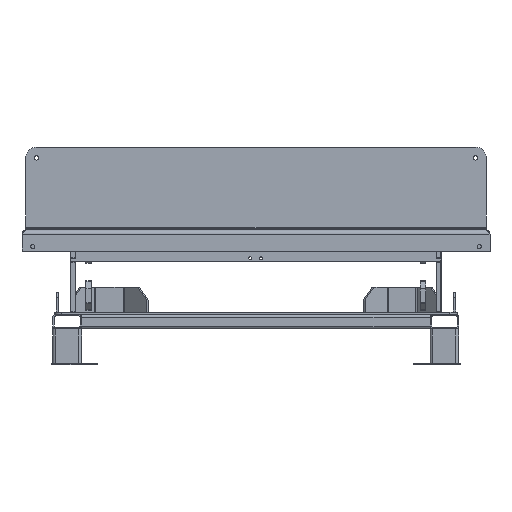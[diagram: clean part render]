
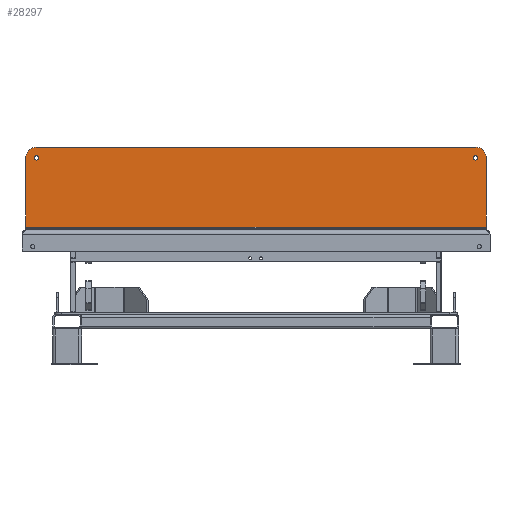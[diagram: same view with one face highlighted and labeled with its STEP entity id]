
A CAD part, left-side view. The second image highlights one B-rep face of the part: STEP entity #28297.
In plain terms, the highlighted planar face has unit normal (-1, 0, 0).
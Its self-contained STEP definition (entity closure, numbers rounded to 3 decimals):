
#417=FACE_BOUND('',#4135,.T.);
#418=FACE_BOUND('',#4136,.T.);
#947=PLANE('',#31582);
#2373=FACE_OUTER_BOUND('',#4134,.T.);
#4134=EDGE_LOOP('',(#25425,#25426,#25427,#25428,#25429,#25430));
#4135=EDGE_LOOP('',(#25431));
#4136=EDGE_LOOP('',(#25432));
#6398=LINE('',#48934,#8702);
#6404=LINE('',#48950,#8708);
#6409=LINE('',#48967,#8713);
#6410=LINE('',#48969,#8714);
#8702=VECTOR('',#40096,10.);
#8708=VECTOR('',#40112,10.);
#8713=VECTOR('',#40137,10.);
#8714=VECTOR('',#40140,10.);
#10587=CIRCLE('',#31530,6.);
#10589=CIRCLE('',#31533,6.);
#10607=CIRCLE('',#31563,30.);
#10610=CIRCLE('',#31569,30.);
#13289=VERTEX_POINT('',#48850);
#13291=VERTEX_POINT('',#48855);
#13316=VERTEX_POINT('',#48921);
#13317=VERTEX_POINT('',#48922);
#13321=VERTEX_POINT('',#48932);
#13325=VERTEX_POINT('',#48944);
#13326=VERTEX_POINT('',#48948);
#13328=VERTEX_POINT('',#48962);
#17343=EDGE_CURVE('',#13289,#13289,#10587,.T.);
#17345=EDGE_CURVE('',#13291,#13291,#10589,.T.);
#17374=EDGE_CURVE('',#13316,#13317,#10607,.T.);
#17380=EDGE_CURVE('',#13321,#13316,#6398,.T.);
#17385=EDGE_CURVE('',#13325,#13321,#10610,.T.);
#17388=EDGE_CURVE('',#13326,#13325,#6404,.T.);
#17397=EDGE_CURVE('',#13326,#13328,#6409,.T.);
#17398=EDGE_CURVE('',#13317,#13328,#6410,.T.);
#25425=ORIENTED_EDGE('',*,*,#17374,.F.);
#25426=ORIENTED_EDGE('',*,*,#17380,.F.);
#25427=ORIENTED_EDGE('',*,*,#17385,.F.);
#25428=ORIENTED_EDGE('',*,*,#17388,.F.);
#25429=ORIENTED_EDGE('',*,*,#17397,.T.);
#25430=ORIENTED_EDGE('',*,*,#17398,.F.);
#25431=ORIENTED_EDGE('',*,*,#17343,.T.);
#25432=ORIENTED_EDGE('',*,*,#17345,.T.);
#28297=ADVANCED_FACE('',(#2373,#417,#418),#947,.T.);
#31530=AXIS2_PLACEMENT_3D('',#48851,#40009,#40010);
#31533=AXIS2_PLACEMENT_3D('',#48856,#40015,#40016);
#31563=AXIS2_PLACEMENT_3D('',#48923,#40086,#40087);
#31569=AXIS2_PLACEMENT_3D('',#48945,#40106,#40107);
#31582=AXIS2_PLACEMENT_3D('',#48970,#40141,#40142);
#40009=DIRECTION('center_axis',(1.,0.,0.));
#40010=DIRECTION('ref_axis',(0.,-1.,0.));
#40015=DIRECTION('center_axis',(1.,0.,0.));
#40016=DIRECTION('ref_axis',(0.,-1.,0.));
#40086=DIRECTION('center_axis',(1.,0.,0.));
#40087=DIRECTION('ref_axis',(0.,-0.707,0.707));
#40096=DIRECTION('',(0.,-1.,0.));
#40106=DIRECTION('center_axis',(1.,0.,0.));
#40107=DIRECTION('ref_axis',(0.,0.707,0.707));
#40112=DIRECTION('',(0.,0.,1.));
#40137=DIRECTION('',(0.,-1.,0.));
#40140=DIRECTION('',(0.,0.,-1.));
#40141=DIRECTION('center_axis',(-1.,0.,0.));
#40142=DIRECTION('ref_axis',(0.,-1.,0.));
#48850=CARTESIAN_POINT('',(-418.553,-616.45,435.));
#48851=CARTESIAN_POINT('Origin',(-418.553,-610.45,435.));
#48855=CARTESIAN_POINT('',(-418.553,603.55,435.));
#48856=CARTESIAN_POINT('Origin',(-418.553,609.55,435.));
#48921=CARTESIAN_POINT('',(-418.553,-610.45,465.));
#48922=CARTESIAN_POINT('',(-418.553,-640.45,435.));
#48923=CARTESIAN_POINT('Origin',(-418.553,-610.45,435.));
#48932=CARTESIAN_POINT('',(-418.553,609.55,465.));
#48934=CARTESIAN_POINT('',(-418.553,-640.45,465.));
#48944=CARTESIAN_POINT('',(-418.553,639.55,435.));
#48945=CARTESIAN_POINT('Origin',(-418.553,609.55,435.));
#48948=CARTESIAN_POINT('',(-418.553,639.55,243.));
#48950=CARTESIAN_POINT('',(-418.553,639.55,465.));
#48962=CARTESIAN_POINT('',(-418.553,-640.45,243.));
#48967=CARTESIAN_POINT('',(-418.553,-320.45,243.));
#48969=CARTESIAN_POINT('',(-418.553,-640.45,235.));
#48970=CARTESIAN_POINT('Origin',(-418.553,-0.45,350.));
